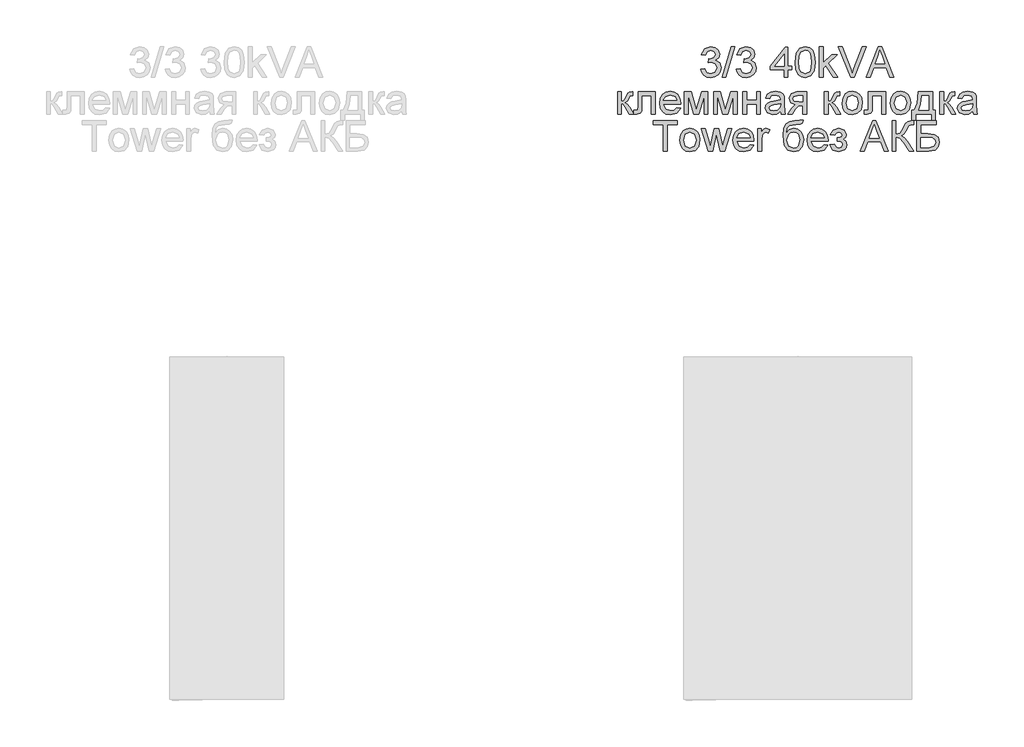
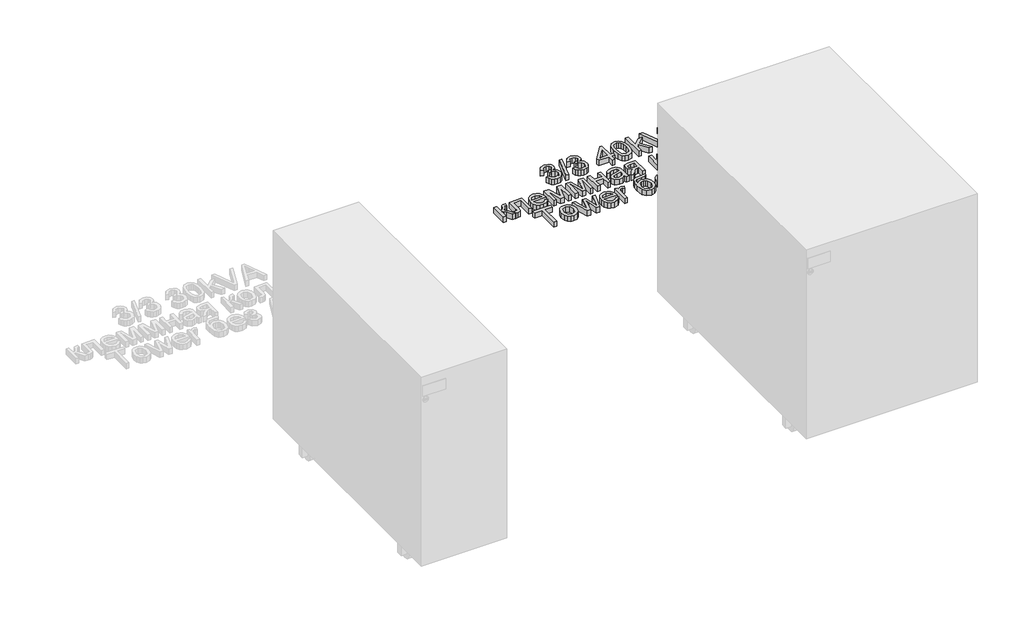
# One storey, part 32 of 74: 1 proxy.
"""IFC4 building model written with IfcOpenShell, lengths in millimetres."""

from ifc_helpers import new_model, si_unit, origin, origin_with_axes, place, context, project, spatial, polyline, outline, extrude, element, save

model = new_model("IFC4")

# Units and contexts
model_context = context("Model", 3, world=origin())
ifc_project = project(units=[si_unit("LENGTHUNIT", "METRE", prefix="MILLI")], contexts=[model_context])

# Site, building, storey
site = spatial("IfcSite", under=ifc_project)
building = spatial("IfcBuilding", under=site)
storey = spatial("IfcBuildingStorey", under=building, Name="Этаж 01", Elevation=0.0)

# Proxy
placement = place(None, origin())
element("IfcBuildingElementProxy", 1, Name="80 мм Arial", ObjectType="80 мм Arial", at=placement, inside=storey, context=model_context, shape_type="SweptSolid", body=[
    extrude(outline(polyline([(20598.3137414, -18752.4422861), (20608.3593724, -18751.1865822), (20613.9021278, -18761.7619633), (20624.2714949, -18764.9993249), (20636.475367, -18760.5455002), (20641.0076732, -18749.5188505), (20636.5146077, -18739.129863), (20625.0955506, -18735.0193948), (20618.0518367, -18736.1181357), (20619.1701979, -18726.0725047), (20620.7790685, -18726.1902269), (20632.1785053, -18723.3060321), (20637.2405615, -18714.4376235), (20633.5715518, -18706.5796641), (20624.114532, -18703.4698349), (20614.5397899, -18706.6090946), (20609.6150762, -18716.0268737), (20599.5694452, -18714.7711698), (20607.7903816, -18699.0160102), (20623.7613652, -18693.4242039), (20635.8769456, -18696.1808663), (20644.3529468, -18703.7150896), (20647.2861926, -18713.8490123), (20644.5000996, -18723.1098284), (20636.2595429, -18729.7611348), (20647.2077111, -18736.6282654), (20651.0533042, -18749.6954339), (20649.1305076, -18759.4860001), (20643.3621179, -18767.6676956), (20634.6555774, -18773.2006408), (20623.9183282, -18775.0449559), (20614.2062435, -18773.470421), (20606.2992332, -18768.7468161), (20600.8006236, -18761.5216138), (20598.3137414, -18752.4422861)])), origin_with_axes(), (0.0, 0.0, 1.0), 20.0),
    extrude(outline(polyline([(20654.8204158, -18773.789252), (20677.4230856, -18693.4242039), (20686.487698, -18693.4242039), (20663.8850282, -18773.789252), (20654.8204158, -18773.789252)])), origin_with_axes(), (0.0, 0.0, 1.0), 20.0),
    extrude(outline(polyline([(20691.2358282, -18752.4422861), (20701.2814593, -18751.1865822), (20706.8242147, -18761.7619633), (20717.1935818, -18764.9993249), (20729.3974539, -18760.5455002), (20733.9297601, -18749.5188505), (20729.4366946, -18739.129863), (20718.0176375, -18735.0193948), (20710.9739236, -18736.1181357), (20712.0922848, -18726.0725047), (20713.7011554, -18726.1902269), (20725.1005922, -18723.3060321), (20730.1626484, -18714.4376235), (20726.4936387, -18706.5796641), (20717.0366188, -18703.4698349), (20707.4618768, -18706.6090946), (20702.5371631, -18716.0268737), (20692.4915321, -18714.7711698), (20700.7124684, -18699.0160102), (20716.6834521, -18693.4242039), (20728.7990325, -18696.1808663), (20737.2750337, -18703.7150896), (20740.2082794, -18713.8490123), (20737.4221865, -18723.1098284), (20729.1816298, -18729.7611348), (20740.129798, -18736.6282654), (20743.9753911, -18749.6954339), (20742.0525945, -18759.4860001), (20736.2842048, -18767.6676956), (20727.5776643, -18773.2006408), (20716.8404151, -18775.0449559), (20707.1283304, -18773.470421), (20699.2213201, -18768.7468161), (20693.7227105, -18761.5216138), (20691.2358282, -18752.4422861)])), origin_with_axes(), (0.0, 0.0, 1.0), 20.0),
    extrude(outline(polyline([(20816.8062159, -18773.789252), (20816.8062159, -18754.9536939), (20780.3908035, -18754.9536939), (20780.3908035, -18744.9080629), (20819.3176237, -18694.6799078), (20826.8518469, -18694.6799078), (20826.8518469, -18744.9080629), (20836.897478, -18744.9080629), (20836.897478, -18754.9536939), (20826.8518469, -18754.9536939), (20826.8518469, -18773.789252), (20816.8062159, -18773.789252)]), holes=[polyline([(20816.8062159, -18744.9080629), (20816.8062159, -18713.8686327), (20792.7516385, -18744.9080629), (20816.8062159, -18744.9080629)])]), origin_with_axes(), (0.0, 0.0, 1.0), 20.0),
    extrude(outline(polyline([(20845.6874051, -18734.2542003), (20848.6402712, -18711.1315906), (20857.410578, -18697.7995471), (20872.0571865, -18693.4242039), (20883.7901696, -18696.0140932), (20891.8933837, -18703.4796451), (20896.6022732, -18715.3695912), (20898.4269679, -18734.2542003), (20895.5035323, -18757.2787081), (20886.7626561, -18770.6401821), (20872.0571865, -18775.0449559), (20861.619148, -18773.1319695), (20853.6925173, -18767.3930104), (20847.6886832, -18753.800997), (20845.6874051, -18734.2542003)]), holes=[polyline([(20855.7330361, -18734.2345799), (20856.9102585, -18750.0363379), (20860.4419257, -18759.1818843), (20872.0571865, -18764.9993249), (20883.6724474, -18759.1622639), (20887.2041145, -18750.0118124), (20888.3813369, -18734.2345799), (20887.2433553, -18718.7884412), (20883.8294104, -18709.5717709), (20878.5809606, -18704.9953189), (20871.9394643, -18703.4698349), (20860.5988886, -18708.8458171), (20856.9494992, -18718.6363833), (20855.7330361, -18734.2345799)])]), origin_with_axes(), (0.0, 0.0, 1.0), 20.0),
    extrude(outline(polyline([(20909.7283028, -18773.789252), (20909.7283028, -18693.4242039), (20919.7739338, -18693.4242039), (20919.7739338, -18736.608645), (20942.2981221, -18714.7711698), (20956.1893463, -18714.7711698), (20933.3904728, -18736.8833303), (20957.4450501, -18773.789252), (20945.712067, -18773.789252), (20926.1897958, -18743.8681831), (20919.7739338, -18750.0878413), (20919.7739338, -18773.789252), (20909.7283028, -18773.789252)])), origin_with_axes(), (0.0, 0.0, 1.0), 20.0),
    extrude(outline(polyline([(21032.2182919, -18773.789252), (21064.2976019, -18693.4242039), (21072.8520846, -18693.4242039), (21104.9313946, -18773.789252), (21094.3167727, -18773.789252), (21085.1148177, -18748.6751745), (21052.0152484, -18748.6751745), (21042.8329138, -18773.789252), (21032.2182919, -18773.789252)]), holes=[polyline([(21055.7038785, -18738.6295435), (21081.445808, -18738.6295435), (21074.2058903, -18718.8718278), (21068.5748432, -18703.4698349), (21063.5716481, -18717.145235), (21055.7038785, -18738.6295435)])]), origin_with_axes(), (0.0, 0.0, 1.0), 20.0),
    extrude(outline(polyline([(20991.2313326, -18773.789252), (20959.2501245, -18693.4242039), (20970.0020889, -18693.4242039), (20991.4079159, -18751.3239249), (20995.7440184, -18764.3714729), (21000.0212597, -18751.3239249), (21021.4859479, -18693.4242039), (21032.2379123, -18693.4242039), (21001.6105099, -18773.789252), (20991.2313326, -18773.789252)])), origin_with_axes(), (0.0, 0.0, 1.0), 20.0),
    extrude(outline(polyline([(20433.1886815, -18812.3510241), (20478.3940211, -18812.3510241), (20478.3940211, -18871.3102452), (20468.3483901, -18871.3102452), (20468.3483901, -18822.3966551), (20443.2343126, -18822.3966551), (20443.2343126, -18850.5518905), (20442.5574097, -18863.5405774), (20438.839349, -18869.0244717), (20430.0494219, -18871.3691063), (20421.8873467, -18870.8589766), (20421.8873467, -18861.3234753), (20426.3804121, -18861.3234753), (20430.9225285, -18860.7054335), (20432.737413, -18858.7433962), (20433.1886815, -18849.9828996), (20433.1886815, -18812.3510241)])), origin_with_axes(), (0.0, 0.0, 1.0), 20.0),
    extrude(outline(polyline([(20379.1934148, -18812.3510241), (20389.2390459, -18812.3510241), (20389.2390459, -18837.4651016), (20395.9688338, -18835.6600273), (20401.4821587, -18825.1435073), (20406.0635158, -18816.0690848), (20410.1053126, -18813.1162186), (20417.4531423, -18812.3510241), (20419.3759389, -18812.3510241), (20419.3759389, -18822.4555162), (20416.6683274, -18822.3966551), (20411.7632341, -18823.4561553), (20408.3100485, -18830.068221), (20404.2584414, -18837.219847), (20398.5783434, -18840.7220836), (20404.9157239, -18844.6314429), (20411.1353822, -18852.8670945), (20421.8873467, -18871.3691063), (20410.4682895, -18871.3691063), (20399.9321492, -18853.259502), (20394.6346485, -18845.5977463), (20389.2390459, -18843.743621), (20389.2390459, -18871.3691063), (20379.1934148, -18871.3691063), (20379.1934148, -18812.3510241)])), origin_with_axes(), (0.0, 0.0, 1.0), 20.0),
    extrude(outline(polyline([(20534.7829733, -18853.789252), (20544.6324006, -18855.0449559), (20535.4206355, -18868.0140225), (20518.2626192, -18872.6248102), (20506.4756801, -18870.6357949), (20497.4061626, -18864.6687489), (20491.6230577, -18855.1111747), (20489.695356, -18842.3505745), (20491.642678, -18829.1607787), (20497.4846441, -18819.2966362), (20506.4315342, -18813.1456492), (20517.6936284, -18811.0953202), (20528.6050084, -18813.1407441), (20537.3238116, -18819.2770158), (20543.0406979, -18829.121538), (20544.9463266, -18842.2917134), (20544.8874655, -18844.9993249), (20499.740987, -18844.9993249), (20505.5191869, -18858.046873), (20518.4588229, -18862.5791792), (20528.3082502, -18860.4797992), (20534.7829733, -18853.789252)]), holes=[polyline([(20499.740987, -18834.9536939), (20534.9006956, -18834.9536939), (20530.8785191, -18825.8498408), (20517.6543876, -18821.1409512), (20505.2837424, -18824.8982527), (20499.740987, -18834.9536939)])]), origin_with_axes(), (0.0, 0.0, 1.0), 20.0),
    extrude(outline(polyline([(20554.9919576, -18812.3510241), (20572.2775063, -18812.3510241), (20585.5997396, -18859.5968825), (20599.9618527, -18812.3510241), (20616.5214476, -18812.3510241), (20616.5214476, -18871.3691063), (20606.4758166, -18871.3691063), (20606.4758166, -18823.8485627), (20592.035222, -18871.3691063), (20578.8503313, -18871.3691063), (20565.0375886, -18821.5725994), (20565.0375886, -18871.3691063), (20554.9919576, -18871.3691063), (20554.9919576, -18812.3510241)])), origin_with_axes(), (0.0, 0.0, 1.0), 20.0),
    extrude(outline(polyline([(20631.5898941, -18812.3510241), (20648.8754428, -18812.3510241), (20662.1976761, -18859.5968825), (20676.5597892, -18812.3510241), (20693.1193841, -18812.3510241), (20693.1193841, -18871.3691063), (20683.073753, -18871.3691063), (20683.073753, -18823.8485627), (20668.6331585, -18871.3691063), (20655.4482678, -18871.3691063), (20641.6355251, -18821.5725994), (20641.6355251, -18871.3691063), (20631.5898941, -18871.3691063), (20631.5898941, -18812.3510241)])), origin_with_axes(), (0.0, 0.0, 1.0), 20.0),
    extrude(outline(polyline([(20708.1878306, -18812.3510241), (20718.2334616, -18812.3510241), (20718.2334616, -18834.9536939), (20744.603243, -18834.9536939), (20744.603243, -18812.3510241), (20754.648874, -18812.3510241), (20754.648874, -18871.3691063), (20744.603243, -18871.3691063), (20744.603243, -18844.9993249), (20718.2334616, -18844.9993249), (20718.2334616, -18871.3691063), (20708.1878306, -18871.3691063), (20708.1878306, -18812.3510241)])), origin_with_axes(), (0.0, 0.0, 1.0), 20.0),
    extrude(outline(polyline([(20807.3884369, -18863.834883), (20797.6469216, -18870.6431525), (20786.885147, -18872.6248102), (20772.2973996, -18867.8570595), (20767.2059128, -18855.6728078), (20769.1287094, -18847.7265567), (20774.1809554, -18841.9581671), (20781.2148592, -18838.6619444), (20789.9066844, -18837.1511757), (20807.3295757, -18833.69799), (20807.3884369, -18831.4612675), (20804.6219643, -18824.0447664), (20793.5168331, -18821.1409512), (20783.3534798, -18823.073558), (20778.5072477, -18829.9308784), (20768.4616167, -18828.6751745), (20772.8075293, -18818.864988), (20781.5582157, -18813.1162186), (20794.8117777, -18811.0953202), (20806.9862192, -18812.8807742), (20813.86316, -18817.3640294), (20816.9435585, -18824.1821091), (20817.4340679, -18832.9720362), (20817.4340679, -18845.4702138), (20817.9441976, -18862.9225357), (20819.9454756, -18871.3691063), (20809.8998446, -18871.3691063), (20807.3884369, -18863.834883)]), holes=[polyline([(20807.3884369, -18843.743621), (20791.1820087, -18846.8240196), (20782.5392344, -18848.4525105), (20778.6249699, -18851.1012609), (20777.2515438, -18854.9664744), (20780.2436507, -18860.4013178), (20789.0237677, -18862.5791792), (20799.1871209, -18860.1756835), (20805.7403255, -18854.3582428), (20807.3295757, -18846.5885751), (20807.3884369, -18843.743621)])]), origin_with_axes(), (0.0, 0.0, 1.0), 20.0),
    extrude(outline(polyline([(20876.4521501, -18812.3510241), (20876.4521501, -18871.3691063), (20866.4065191, -18871.3691063), (20866.4065191, -18848.7664365), (20860.932435, -18848.7664365), (20853.4766932, -18850.0417608), (20846.47222, -18858.6158638), (20838.4671078, -18871.3691063), (20826.8518469, -18871.3691063), (20836.9367187, -18855.2411596), (20845.4912014, -18846.8828807), (20833.797459, -18840.7809447), (20829.9911066, -18829.4011283), (20835.1905055, -18817.079534), (20850.2393317, -18812.3510241), (20876.4521501, -18812.3510241)]), holes=[polyline([(20866.4065191, -18822.3966551), (20853.1627672, -18822.3966551), (20842.4402334, -18824.7216693), (20840.0367377, -18830.1663228), (20843.578215, -18836.6508561), (20856.1254436, -18838.7208055), (20866.4065191, -18838.7208055), (20866.4065191, -18822.3966551)])]), origin_with_axes(), (0.0, 0.0, 1.0), 20.0),
    extrude(outline(polyline([(20922.9131935, -18812.3510241), (20932.9588245, -18812.3510241), (20932.9588245, -18837.4651016), (20939.6886125, -18835.6600273), (20945.2019373, -18825.1435073), (20949.7832945, -18816.0690848), (20953.8250913, -18813.1162186), (20961.172921, -18812.3510241), (20963.0957176, -18812.3510241), (20963.0957176, -18822.4555162), (20960.3881061, -18822.3966551), (20955.4830128, -18823.4561553), (20952.0298272, -18830.068221), (20947.9782201, -18837.219847), (20942.2981221, -18840.7220836), (20948.6355026, -18844.6314429), (20954.8551609, -18852.8670945), (20965.6071253, -18871.3691063), (20954.1880682, -18871.3691063), (20943.6519279, -18853.259502), (20938.3544271, -18845.5977463), (20932.9588245, -18843.743621), (20932.9588245, -18871.3691063), (20922.9131935, -18871.3691063), (20922.9131935, -18812.3510241)])), origin_with_axes(), (0.0, 0.0, 1.0), 20.0),
    extrude(outline(polyline([(20969.374237, -18841.8600652), (20971.5471933, -18827.6303896), (20978.0660622, -18817.6289044), (20986.1202254, -18812.7287163), (20995.7636388, -18811.0953202), (21006.3169469, -18813.0843355), (21014.7463497, -18819.0513815), (21020.2719373, -18828.5255691), (21022.1137998, -18841.0360095), (21018.8568179, -18858.9101694), (21009.3703675, -18869.0244717), (20995.7636388, -18872.6248102), (20985.0827982, -18870.6431525), (20976.6632056, -18864.6981795), (20971.1964791, -18855.0253355), (20969.374237, -18841.8600652)]), holes=[polyline([(20979.419868, -18841.8404448), (20984.0698964, -18857.4092109), (20995.7636388, -18862.5791792), (21007.4181404, -18857.3797803), (21012.0681688, -18841.5265189), (21007.3887098, -18826.3109195), (20995.7636388, -18821.1409512), (20984.0698964, -18826.2912992), (20979.419868, -18841.8404448)])]), origin_with_axes(), (0.0, 0.0, 1.0), 20.0),
    extrude(outline(polyline([(21038.4379502, -18812.3510241), (21083.6432898, -18812.3510241), (21083.6432898, -18871.3102452), (21073.5976588, -18871.3102452), (21073.5976588, -18822.3966551), (21048.4835812, -18822.3966551), (21048.4835812, -18850.5518905), (21047.8066783, -18863.5405774), (21044.0886176, -18869.0244717), (21035.2986905, -18871.3691063), (21027.1366153, -18870.8589766), (21027.1366153, -18861.3234753), (21031.6296807, -18861.3234753), (21036.1717971, -18860.7054335), (21037.9866816, -18858.7433962), (21038.4379502, -18849.9828996), (21038.4379502, -18812.3510241)])), origin_with_axes(), (0.0, 0.0, 1.0), 20.0),
    extrude(outline(polyline([(21096.2003285, -18841.8600652), (21098.3732849, -18827.6303896), (21104.8921538, -18817.6289044), (21112.946317, -18812.7287163), (21122.5897303, -18811.0953202), (21133.1430385, -18813.0843355), (21141.5724413, -18819.0513815), (21147.0980288, -18828.5255691), (21148.9398914, -18841.0360095), (21145.6829094, -18858.9101694), (21136.1964591, -18869.0244717), (21122.5897303, -18872.6248102), (21111.9088897, -18870.6431525), (21103.4892971, -18864.6981795), (21098.0225707, -18855.0253355), (21096.2003285, -18841.8600652)]), holes=[polyline([(21106.2459596, -18841.8404448), (21110.895988, -18857.4092109), (21122.5897303, -18862.5791792), (21134.2442319, -18857.3797803), (21138.8942603, -18841.5265189), (21134.2148014, -18826.3109195), (21122.5897303, -18821.1409512), (21110.895988, -18826.2912992), (21106.2459596, -18841.8404448)])]), origin_with_axes(), (0.0, 0.0, 1.0), 20.0),
    extrude(outline(polyline([(21169.0311534, -18812.3510241), (21206.7022697, -18812.3510241), (21206.7022697, -18861.3234753), (21214.236493, -18861.3234753), (21214.236493, -18887.6932567), (21204.1908619, -18887.6932567), (21204.1908619, -18871.3691063), (21162.752634, -18871.3691063), (21162.752634, -18887.6932567), (21152.707003, -18887.6932567), (21152.707003, -18861.3234753), (21158.9855224, -18861.3234753), (21166.7453799, -18842.164181), (21169.0311534, -18812.3510241)]), holes=[polyline([(21177.8210805, -18822.3966551), (21175.4666358, -18845.2838203), (21170.2868573, -18861.3234753), (21196.6566387, -18861.3234753), (21196.6566387, -18822.3966551), (21177.8210805, -18822.3966551)])]), origin_with_axes(), (0.0, 0.0, 1.0), 20.0),
    extrude(outline(polyline([(21225.5378279, -18812.3510241), (21235.5834589, -18812.3510241), (21235.5834589, -18837.4651016), (21242.3132468, -18835.6600273), (21247.8265717, -18825.1435073), (21252.4079288, -18816.0690848), (21256.4497256, -18813.1162186), (21263.7975554, -18812.3510241), (21265.7203519, -18812.3510241), (21265.7203519, -18822.4555162), (21263.0127404, -18822.3966551), (21258.1076472, -18823.4561553), (21254.6544615, -18830.068221), (21250.6028545, -18837.219847), (21244.9227565, -18840.7220836), (21251.260137, -18844.6314429), (21257.4797952, -18852.8670945), (21268.2317597, -18871.3691063), (21256.8127025, -18871.3691063), (21246.2765622, -18853.259502), (21240.9790615, -18845.5977463), (21235.5834589, -18843.743621), (21235.5834589, -18871.3691063), (21225.5378279, -18871.3691063), (21225.5378279, -18812.3510241)])), origin_with_axes(), (0.0, 0.0, 1.0), 20.0),
    extrude(outline(polyline([(21312.1813954, -18863.834883), (21302.4398801, -18870.6431525), (21291.6781055, -18872.6248102), (21277.0903581, -18867.8570595), (21271.9988713, -18855.6728078), (21273.9216679, -18847.7265567), (21278.9739139, -18841.9581671), (21286.0078177, -18838.6619444), (21294.6996429, -18837.1511757), (21312.1225342, -18833.69799), (21312.1813954, -18831.4612675), (21309.4149228, -18824.0447664), (21298.3097916, -18821.1409512), (21288.1464383, -18823.073558), (21283.3002062, -18829.9308784), (21273.2545752, -18828.6751745), (21277.6004878, -18818.864988), (21286.3511742, -18813.1162186), (21299.6047362, -18811.0953202), (21311.7791777, -18812.8807742), (21318.6561185, -18817.3640294), (21321.736517, -18824.1821091), (21322.2270264, -18832.9720362), (21322.2270264, -18845.4702138), (21322.7371561, -18862.9225357), (21324.7384341, -18871.3691063), (21314.6928031, -18871.3691063), (21312.1813954, -18863.834883)]), holes=[polyline([(21312.1813954, -18843.743621), (21295.9749672, -18846.8240196), (21287.3321929, -18848.4525105), (21283.4179284, -18851.1012609), (21282.0445023, -18854.9664744), (21285.0366092, -18860.4013178), (21293.8167262, -18862.5791792), (21303.9800794, -18860.1756835), (21310.533284, -18854.3582428), (21312.1225342, -18846.5885751), (21312.1813954, -18843.743621)])]), origin_with_axes(), (0.0, 0.0, 1.0), 20.0),
    extrude(outline(polyline([(20499.1131351, -18968.9489606), (20499.1131351, -18898.6295435), (20472.7433537, -18898.6295435), (20472.7433537, -18888.5839125), (20535.5285475, -18888.5839125), (20535.5285475, -18898.6295435), (20509.1587661, -18898.6295435), (20509.1587661, -18968.9489606), (20499.1131351, -18968.9489606)])), origin_with_axes(), (0.0, 0.0, 1.0), 20.0),
    extrude(outline(polyline([(20543.0627708, -18939.4399195), (20545.2357271, -18925.2102439), (20551.754596, -18915.2087587), (20559.8087592, -18910.3085705), (20569.4521726, -18908.6751745), (20580.0054807, -18910.6641898), (20588.4348835, -18916.6312358), (20593.9604711, -18926.1054234), (20595.8023336, -18938.6158638), (20592.5453517, -18956.4900237), (20583.0589013, -18966.604326), (20569.4521726, -18970.2046645), (20558.771332, -18968.2230068), (20550.3517394, -18962.2780337), (20544.8850129, -18952.6051898), (20543.0627708, -18939.4399195)]), holes=[polyline([(20553.1084018, -18939.4202991), (20557.7584302, -18954.9890651), (20569.4521726, -18960.1590334), (20581.1066742, -18954.9596346), (20585.7567026, -18939.1063731), (20581.0772436, -18923.8907738), (20569.4521726, -18918.7208055), (20557.7584302, -18923.8711534), (20553.1084018, -18939.4202991)])]), origin_with_axes(), (0.0, 0.0, 1.0), 20.0),
    extrude(outline(polyline([(20616.8942347, -18968.9489606), (20598.9415933, -18909.9308784), (20609.3796318, -18909.9308784), (20619.5626054, -18944.3646331), (20622.6037632, -18956.666607), (20625.0955506, -18944.8159017), (20633.1987647, -18909.9308784), (20645.1671923, -18909.9308784), (20653.2311656, -18944.7177998), (20655.4482678, -18955.4501439), (20658.6267682, -18944.1291886), (20668.8293622, -18909.9308784), (20679.3066414, -18909.9308784), (20661.2166574, -18968.9489606), (20649.0716465, -18968.9489606), (20641.3608399, -18934.3386225), (20639.1241174, -18923.5474173), (20629.1765882, -18968.9489606), (20616.8942347, -18968.9489606)])), origin_with_axes(), (0.0, 0.0, 1.0), 20.0),
    extrude(outline(polyline([(20727.5335184, -18951.3691063), (20737.3829457, -18952.6248102), (20728.1711806, -18965.5938768), (20711.0131643, -18970.2046645), (20699.2262252, -18968.2156491), (20690.1567077, -18962.2486032), (20684.3736028, -18952.6910289), (20682.4459011, -18939.9304288), (20684.3932231, -18926.740633), (20690.2351892, -18916.8764904), (20699.1820793, -18910.7255035), (20710.4441735, -18908.6751745), (20721.3555535, -18910.7205984), (20730.0743567, -18916.8568701), (20735.791243, -18926.7013923), (20737.6968717, -18939.8715677), (20737.6380106, -18942.5791792), (20692.4915321, -18942.5791792), (20698.269732, -18955.6267273), (20711.209368, -18960.1590334), (20721.0587953, -18958.0596535), (20727.5335184, -18951.3691063)]), holes=[polyline([(20692.4915321, -18932.5335481), (20727.6512407, -18932.5335481), (20723.6290642, -18923.429695), (20710.4049327, -18918.7208055), (20698.0342875, -18922.4781069), (20692.4915321, -18932.5335481)])]), origin_with_axes(), (0.0, 0.0, 1.0), 20.0),
    extrude(outline(polyline([(20747.7425027, -18968.9489606), (20747.7425027, -18909.9308784), (20756.5324298, -18909.9308784), (20756.5324298, -18918.6619444), (20762.7717085, -18910.6175914), (20769.0502279, -18908.6751745), (20779.1350996, -18911.7751934), (20775.7800158, -18920.7809447), (20768.7166815, -18918.7208055), (20763.0365835, -18920.7024632), (20759.4166247, -18926.1961676), (20757.7881337, -18937.9291507), (20757.7881337, -18968.9489606), (20747.7425027, -18968.9489606)])), origin_with_axes(), (0.0, 0.0, 1.0), 20.0),
    extrude(outline(polyline([(20858.2444439, -18887.3282086), (20867.034371, -18887.3282086), (20864.4444818, -18895.1665476), (20859.3235644, -18898.0016915), (20847.0215905, -18898.6295435), (20830.4521854, -18900.9447475), (20824.0951845, -18908.3612485), (20821.9467537, -18921.4872781), (20830.6483891, -18911.8732953), (20841.8614324, -18908.6751745), (20852.3141861, -18910.7083356), (20860.7950924, -18916.8078191), (20866.4163293, -18926.3752035), (20868.2900749, -18938.8120675), (20864.5720142, -18956.0976162), (20855.7526565, -18966.5258445), (20841.8614324, -18970.2046645), (20825.9983607, -18965.4663444), (20817.3163456, -18953.3409538), (20814.2948082, -18927.6088345), (20816.2004369, -18908.3342705), (20821.9173231, -18896.5792145), (20831.5877145, -18890.582738), (20845.3538588, -18888.5839125), (20856.5374714, -18888.3582782), (20858.2444439, -18887.3282086)]), holes=[polyline([(20858.2444439, -18938.4981416), (20853.888721, -18924.2635609), (20848.6402712, -18920.1064944), (20841.6063675, -18918.7208055), (20834.2732531, -18920.1849758), (20828.8335046, -18924.5774869), (20824.3404392, -18940.2247344), (20829.3043936, -18955.0283059), (20841.5475064, -18960.1590334), (20848.2821994, -18958.6752427), (20853.6140358, -18954.2238706), (20858.2444439, -18938.4981416)])]), origin_with_axes(), (0.0, 0.0, 1.0), 20.0),
    extrude(outline(polyline([(20922.1676194, -18951.3691063), (20932.0170466, -18952.6248102), (20922.8052815, -18965.5938768), (20905.6472652, -18970.2046645), (20893.8603261, -18968.2156491), (20884.7908086, -18962.2486032), (20879.0077037, -18952.6910289), (20877.080002, -18939.9304288), (20879.027324, -18926.740633), (20884.8692901, -18916.8764904), (20893.8161803, -18910.7255035), (20905.0782744, -18908.6751745), (20915.9896544, -18910.7205984), (20924.7084577, -18916.8568701), (20930.4253439, -18926.7013923), (20932.3309726, -18939.8715677), (20932.2721115, -18942.5791792), (20887.125633, -18942.5791792), (20892.9038329, -18955.6267273), (20905.843469, -18960.1590334), (20915.6928962, -18958.0596535), (20922.1676194, -18951.3691063)]), holes=[polyline([(20887.125633, -18932.5335481), (20922.2853416, -18932.5335481), (20918.2631651, -18923.429695), (20905.0390337, -18918.7208055), (20892.6683884, -18922.4781069), (20887.125633, -18932.5335481)])]), origin_with_axes(), (0.0, 0.0, 1.0), 20.0),
    extrude(outline(polyline([(20956.1893463, -18942.5791792), (20956.1893463, -18932.5335481), (20964.115977, -18932.1411407), (20968.1185331, -18930.051571), (20970.0020889, -18925.6860379), (20967.480871, -18920.6141715), (20960.9767173, -18918.7208055), (20954.2567395, -18920.6043613), (20949.9108269, -18926.2550288), (20938.609492, -18924.9993249), (20946.1633356, -18912.7562121), (20959.9564579, -18908.6751745), (20974.7109784, -18913.6489391), (20980.0477199, -18925.529075), (20978.1494488, -18931.7683536), (20972.4546355, -18936.5949654), (20979.0961318, -18942.8538644), (20981.3034238, -18951.8596156), (20979.9030197, -18959.2540437), (20975.7018073, -18965.1131776), (20960.0349394, -18970.2046645), (20944.5838956, -18965.4957749), (20937.3537881, -18951.3691063), (20948.655123, -18950.1134024), (20953.1874292, -18957.5299034), (20960.9963377, -18960.1590334), (20968.3343572, -18957.6378155), (20971.2577928, -18951.1925229), (20969.4429083, -18945.9146426), (20965.5776948, -18943.0893089), (20958.1513836, -18942.520318), (20956.1893463, -18942.5791792)])), origin_with_axes(), (0.0, 0.0, 1.0), 20.0),
    extrude(outline(polyline([(21017.1498454, -18968.9489606), (21049.2291554, -18888.5839125), (21057.7836381, -18888.5839125), (21089.862948, -18968.9489606), (21079.2483262, -18968.9489606), (21070.0463712, -18943.834883), (21036.9468018, -18943.834883), (21027.7644672, -18968.9489606), (21017.1498454, -18968.9489606)]), holes=[polyline([(21040.635432, -18933.789252), (21066.3773615, -18933.789252), (21059.1374438, -18914.0315363), (21053.5063967, -18898.6295435), (21048.5032016, -18912.3049435), (21040.635432, -18933.789252)])]), origin_with_axes(), (0.0, 0.0, 1.0), 20.0),
    extrude(outline(polyline([(21100.5952921, -18888.5839125), (21110.6409231, -18888.5839125), (21110.6409231, -18923.743621), (21121.8735867, -18921.0850605), (21129.7119257, -18907.6352947), (21135.2546811, -18896.4026311), (21141.5332005, -18890.8402554), (21150.5095212, -18888.5839125), (21157.1019666, -18888.7016347), (21157.1019666, -18898.7472657), (21154.8848644, -18898.6884046), (21152.6677622, -18898.6295435), (21144.819613, -18901.0428494), (21138.8550196, -18911.382786), (21131.7426344, -18923.9790655), (21124.8068325, -18928.1385846), (21132.5617849, -18932.6807009), (21140.2088253, -18942.147531), (21157.1019666, -18968.9489606), (21145.447465, -18968.9489606), (21131.1638334, -18946.30705), (21121.1083922, -18934.4857753), (21110.6409231, -18931.2778443), (21110.6409231, -18968.9489606), (21100.5952921, -18968.9489606), (21100.5952921, -18888.5839125)])), origin_with_axes(), (0.0, 0.0, 1.0), 20.0),
    extrude(outline(polyline([(21165.8918937, -18888.5839125), (21216.1200488, -18888.5839125), (21216.1200488, -18898.6295435), (21175.9375247, -18898.6295435), (21175.9375247, -18922.4879171), (21194.7534625, -18922.4879171), (21211.3326777, -18924.5284359), (21221.2017254, -18932.2392426), (21224.9099759, -18945.4241333), (21222.2710357, -18956.8726209), (21214.3934559, -18965.5742564), (21196.5585368, -18968.9489606), (21165.8918937, -18968.9489606), (21165.8918937, -18888.5839125)]), holes=[polyline([(21175.9375247, -18958.9033296), (21197.461074, -18958.9033296), (21210.5086221, -18955.5874865), (21214.8643449, -18945.6399574), (21212.3725575, -18937.7721878), (21205.4367556, -18933.5734279), (21190.2996378, -18932.5335481), (21175.9375247, -18932.5335481), (21175.9375247, -18958.9033296)])]), origin_with_axes(), (0.0, 0.0, 1.0), 20.0),
])

save(model, "model.ifc")
